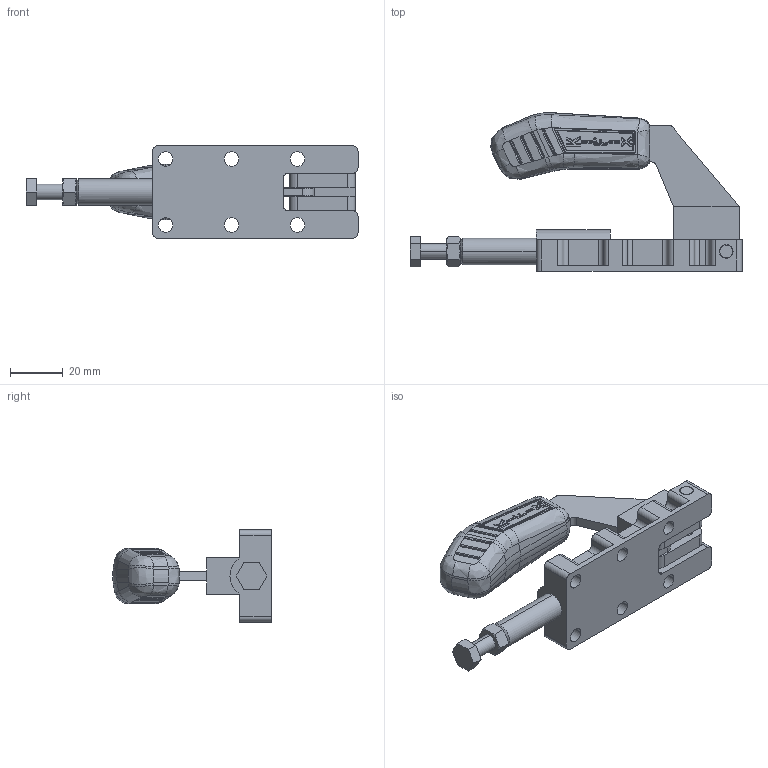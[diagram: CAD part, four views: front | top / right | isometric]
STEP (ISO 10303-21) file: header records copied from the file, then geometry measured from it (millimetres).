
FILE_DESCRIPTION (( 'STEP AP203' ), '1' );
FILE_NAME ('KF-305.STEP', '2014-08-25T17:22:26', ( 'Ricardo' ), ( '' ), 'SwSTEP 2.0', 'SolidWorks 2013', '' );
FILE_SCHEMA (( 'CONFIG_CONTROL_DESIGN' ));
Length unit declared in the file: millimetre
Products named in the file (12): 16.20060; 02.30013; 12.50019; 01.10085; 11.50001; 03.20041; PP-M6; 08.10044; KF-305; 07.60005; 3670000031; 3670000032
Assembly tree (12 placements, depth 3):
  KF-305
    02.30013
    01.10085
    03.20041
    08.10044
    07.60005
    3670000031
    3670000032
    16.20060  x2
    PP-M6
      12.50019
      11.50001
Bounding box: 126 x 60.23 x 35 mm (x, y, z)
Volume: 51794.4 mm3; surface area: 29732.8 mm2
Topology: 11 solids, 11 shells, 847 faces, 2190 edges, 1381 vertices
Faces by surface type: cylinder 272, bspline 269, plane 215, sphere 50, cone 39, torus 2
Entity records: 33746 total; most frequent: CARTESIAN_POINT 14460, ORIENTED_EDGE 4336, DIRECTION 2996, EDGE_CURVE 2168, VERTEX_POINT 1371, AXIS2_PLACEMENT_3D 1111, EDGE_LOOP 895, FACE_OUTER_BOUND 838
